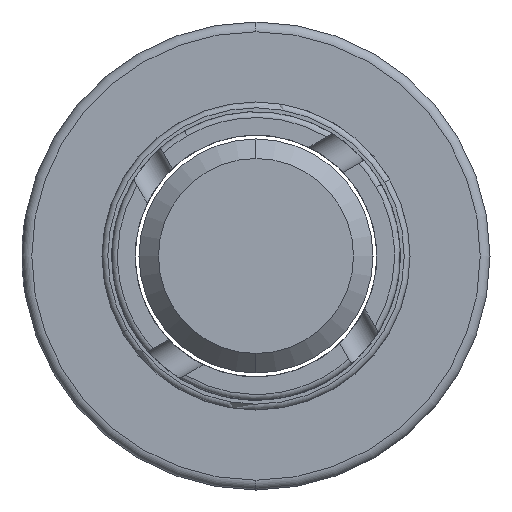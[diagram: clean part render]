
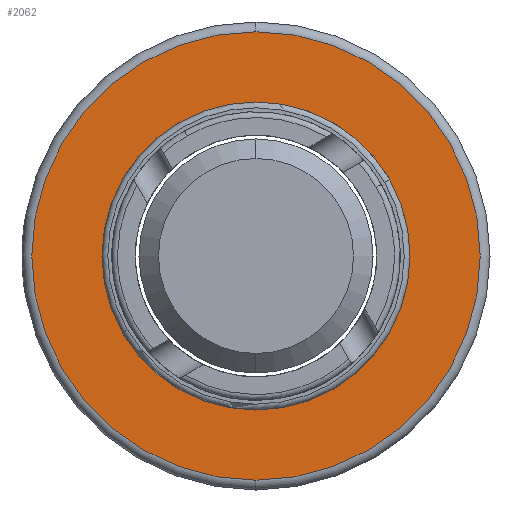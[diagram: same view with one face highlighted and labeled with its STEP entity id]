
A CAD part, left-side view. The second image highlights one B-rep face of the part: STEP entity #2062.
In plain terms, the highlighted planar face has unit normal (-1, 0, 0).
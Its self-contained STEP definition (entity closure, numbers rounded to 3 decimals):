
#59 = CARTESIAN_POINT ( 'NONE',  ( 0., 0., 0. ) ) ;
#86 = DIRECTION ( 'NONE',  ( -1., 0., 0. ) ) ;
#197 = AXIS2_PLACEMENT_3D ( 'NONE', #3286, #86, #886 ) ;
#243 = EDGE_LOOP ( 'NONE', ( #589, #1235 ) ) ;
#360 = AXIS2_PLACEMENT_3D ( 'NONE', #3343, #1482, #1984 ) ;
#532 = AXIS2_PLACEMENT_3D ( 'NONE', #642, #910, #3331 ) ;
#550 = EDGE_CURVE ( 'NONE', #2481, #2424, #911, .T. ) ;
#589 = ORIENTED_EDGE ( 'NONE', *, *, #3175, .T. ) ;
#593 = DIRECTION ( 'NONE',  ( 1., 0., 0. ) ) ;
#642 = CARTESIAN_POINT ( 'NONE',  ( 0., 0., 0. ) ) ;
#667 = CIRCLE ( 'NONE', #3415, 7.9 ) ;
#716 = ORIENTED_EDGE ( 'NONE', *, *, #2744, .F. ) ;
#821 = EDGE_LOOP ( 'NONE', ( #716, #2549 ) ) ;
#886 = DIRECTION ( 'NONE',  ( 0., 0., 1. ) ) ;
#910 = DIRECTION ( 'NONE',  ( -1., 0., 0. ) ) ;
#911 = CIRCLE ( 'NONE', #197, 7.9 ) ;
#920 = FACE_OUTER_BOUND ( 'NONE', #243, .T. ) ;
#987 = CIRCLE ( 'NONE', #360, 11.5 ) ;
#1128 = PLANE ( 'NONE',  #3359 ) ;
#1235 = ORIENTED_EDGE ( 'NONE', *, *, #3236, .T. ) ;
#1312 = CIRCLE ( 'NONE', #532, 11.5 ) ;
#1418 = CARTESIAN_POINT ( 'NONE',  ( 0., 0., -11.5 ) ) ;
#1482 = DIRECTION ( 'NONE',  ( -1., 0., 0. ) ) ;
#1875 = CARTESIAN_POINT ( 'NONE',  ( 0., 0., 11.5 ) ) ;
#1941 = CARTESIAN_POINT ( 'NONE',  ( 0., 0., -7.9 ) ) ;
#1945 = CARTESIAN_POINT ( 'NONE',  ( 0., 0., 7.9 ) ) ;
#1984 = DIRECTION ( 'NONE',  ( 0., 0., -1. ) ) ;
#2029 = DIRECTION ( 'NONE',  ( -1., 0., 0. ) ) ;
#2062 = ADVANCED_FACE ( 'NONE', ( #3071, #920 ), #1128, .F. ) ;
#2301 = DIRECTION ( 'NONE',  ( 0., 0., 1. ) ) ;
#2323 = CARTESIAN_POINT ( 'NONE',  ( 0., 0., 0. ) ) ;
#2424 = VERTEX_POINT ( 'NONE', #1945 ) ;
#2465 = DIRECTION ( 'NONE',  ( 0., 0., -1. ) ) ;
#2478 = VERTEX_POINT ( 'NONE', #1418 ) ;
#2481 = VERTEX_POINT ( 'NONE', #1941 ) ;
#2549 = ORIENTED_EDGE ( 'NONE', *, *, #550, .F. ) ;
#2744 = EDGE_CURVE ( 'NONE', #2424, #2481, #667, .T. ) ;
#3071 = FACE_BOUND ( 'NONE', #821, .T. ) ;
#3175 = EDGE_CURVE ( 'NONE', #2478, #3490, #987, .T. ) ;
#3236 = EDGE_CURVE ( 'NONE', #3490, #2478, #1312, .T. ) ;
#3286 = CARTESIAN_POINT ( 'NONE',  ( 0., 0., 0. ) ) ;
#3331 = DIRECTION ( 'NONE',  ( 0., 0., -1. ) ) ;
#3343 = CARTESIAN_POINT ( 'NONE',  ( 0., 0., 0. ) ) ;
#3359 = AXIS2_PLACEMENT_3D ( 'NONE', #59, #593, #2465 ) ;
#3415 = AXIS2_PLACEMENT_3D ( 'NONE', #2323, #2029, #2301 ) ;
#3490 = VERTEX_POINT ( 'NONE', #1875 ) ;
